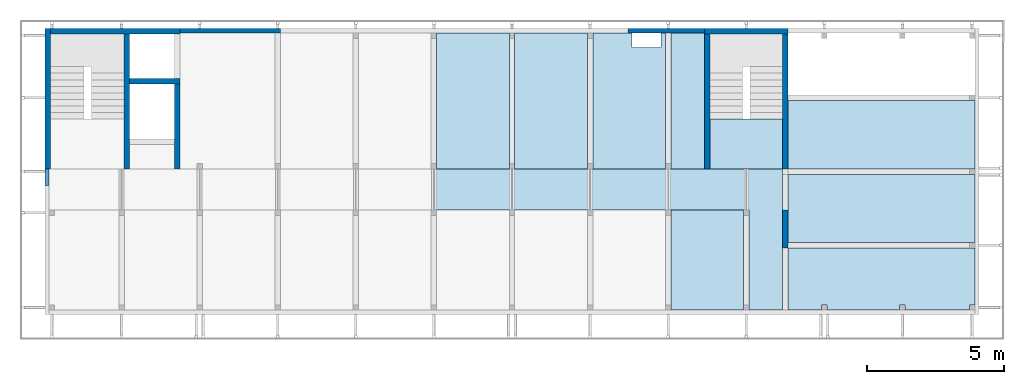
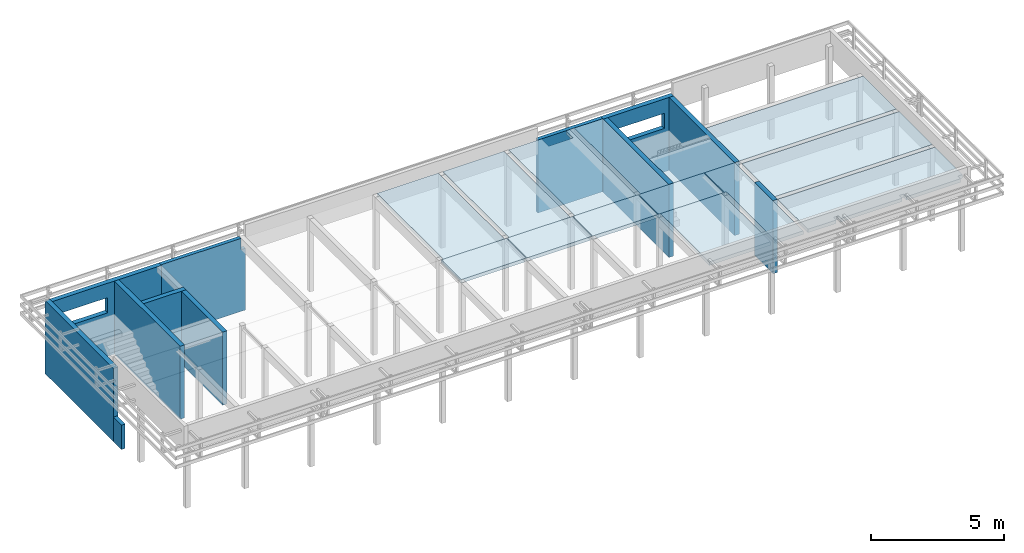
# One storey, part 3 of 44: 14 slabs, 12 walls, 2 openings.
"""IFC4 building model written with IfcOpenShell, lengths in metres."""

from ifc_helpers import new_model, entity, si_unit, converted_unit, derived_unit, frame, frame_2d, origin, origin_with_axes, place, context, subcontext, project, spatial, polyline, rectangle, outline, extrude, clip, bounded_halfspace, material, element, save


model = new_model("IFC4")

# Units and contexts
model_context = context("Model", 3, precision=1e-05, world=origin())
plan_context = context("Plan", 2, precision=1e-05, world=origin())
body_context = subcontext(model_context, "Body", "Model", "MODEL_VIEW")
ifc_project = project(units=[si_unit("LENGTHUNIT", "METRE"), si_unit("AREAUNIT", "SQUARE_METRE"), si_unit("VOLUMEUNIT", "CUBIC_METRE"), si_unit("MASSUNIT", "GRAM", prefix="KILO"), converted_unit("PLANEANGLEUNIT", "DEGREE", entity("IfcPlaneAngleMeasure", 0.0174532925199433), si_unit("PLANEANGLEUNIT", "RADIAN"), dimensions=[0, 0, 0, 0, 0, 0, 0]), derived_unit("THERMALTRANSMITTANCEUNIT", [(si_unit("POWERUNIT", "WATT"), 1), (si_unit("THERMODYNAMICTEMPERATUREUNIT", "KELVIN"), -1), (si_unit("LENGTHUNIT", "METRE"), -2)]), derived_unit("VOLUMETRICFLOWRATEUNIT", [(si_unit("LENGTHUNIT", "METRE"), 3), (converted_unit("TIMEUNIT", "hour", entity("IfcTimeMeasure", 3600.0), si_unit("TIMEUNIT", "SECOND"), dimensions=[0, 0, 1, 0, 0, 0, 0]), -1), (si_unit("LENGTHUNIT", "METRE"), -1)])], contexts=[model_context, plan_context])

# Site, building, storey
site_placement = place(None, origin())
site = spatial("IfcSite", under=ifc_project, at=site_placement, Name="Site", CompositionType="ELEMENT")
building_placement = place(site_placement, origin())
building = spatial("IfcBuilding", under=site, at=building_placement, Name="Admin", CompositionType="ELEMENT")
storey_placement = place(building_placement, frame((0.0, 0.0, 3.25)))
storey = spatial("IfcBuildingStorey", under=building, at=storey_placement, Name="01-Etage1", CompositionType="ELEMENT", Elevation=3.25)

# Slabs
ifc_material_1 = material(Name="CLT")
slab_1_placement = place(storey_placement, frame((38.3498001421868, 17.199449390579, 3.2)))
element("IfcSlab", 1, at=slab_1_placement, inside=storey, material=ifc_material_1, Name="CLT ép. 16 cm", PredefinedType="FLOOR", context=body_context, shape_type="SweptSolid", body=[
    extrude(rectangle(XDim=4.99, YDim=2.65999999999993, at=frame_2d((1.32999999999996, -2.495), x_axis=(0.0, -1.0))), frame((0.0, 4.99, 0.0), z_axis=(0.0, 0.0, 1.0), x_axis=(1.0, 0.0, 0.0)), (0.0, 0.0, 1.0), 0.16),
])
ifc_material_2 = material(Name="CLT")
slab_2_placement = place(storey_placement, frame((51.21980059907, 17.209449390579, 3.2)))
element("IfcSlab", 2, at=slab_2_placement, inside=storey, material=ifc_material_2, Name="CLT ép. 16 cm", PredefinedType="FLOOR", context=body_context, shape_type="SweptSolid", body=[
    extrude(rectangle(XDim=6.8399995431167, YDim=2.5, at=frame_2d((3.41999977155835, 1.25), x_axis=(1.0, 0.0))), origin_with_axes(), (0.0, 0.0, 1.0), 0.16),
])
ifc_material_3 = material(Name="CLT")
slab_3_placement = place(storey_placement, frame((41.1298001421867, 15.699449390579, 3.2)))
element("IfcSlab", 3, at=slab_3_placement, inside=storey, material=ifc_material_3, Name="CLT ép. 16 cm", PredefinedType="FLOOR", context=body_context, shape_type="SweptSolid", body=[
    extrude(rectangle(XDim=2.82, YDim=1.5, at=frame_2d((-1.41, -0.75), x_axis=(-1.0, 0.0))), frame((2.82, 1.5, 0.0), z_axis=(0.0, 0.0, 1.0), x_axis=(1.0, 0.0, 0.0)), (0.0, 0.0, 1.0), 0.16),
])
ifc_material_4 = material(Name="CLT")
slab_4_placement = place(storey_placement, frame((38.2698001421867, 15.699449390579, 3.2)))
element("IfcSlab", 4, at=slab_4_placement, inside=storey, material=ifc_material_4, Name="CLT ép. 16 cm", PredefinedType="FLOOR", context=body_context, shape_type="SweptSolid", body=[
    extrude(rectangle(XDim=2.81999999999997, YDim=1.5, at=frame_2d((-1.40999999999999, -0.75), x_axis=(-1.0, 0.0))), frame((2.81999999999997, 1.5, 0.0), z_axis=(0.0, 0.0, 1.0), x_axis=(1.0, 0.0, 0.0)), (0.0, 0.0, 1.0), 0.16),
])
ifc_material_5 = material(Name="CLT")
slab_5_placement = place(storey_placement, frame((51.21980059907, 14.509449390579, 3.2)))
element("IfcSlab", 5, at=slab_5_placement, inside=storey, material=ifc_material_5, Name="CLT ép. 16 cm", PredefinedType="FLOOR", context=body_context, shape_type="SweptSolid", body=[
    extrude(rectangle(XDim=2.5, YDim=6.8399995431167, at=frame_2d((-3.41999977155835, 1.25), x_axis=(0.0, 1.0))), frame((6.8399995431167, 0.0, 0.0), z_axis=(0.0, 0.0, 1.0), x_axis=(1.0, 0.0, 0.0)), (0.0, 0.0, 1.0), 0.16),
])
ifc_material_6 = material(Name="CLT")
slab_6_placement = place(storey_placement, frame((46.8498001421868, 15.699449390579, 3.2)))
element("IfcSlab", 6, at=slab_6_placement, inside=storey, material=ifc_material_6, Name="CLT ép. 16 cm", PredefinedType="FLOOR", context=body_context, shape_type="SweptSolid", body=[
    extrude(rectangle(XDim=2.8199999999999, YDim=1.5, at=frame_2d((-1.40999999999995, -0.75), x_axis=(-1.0, 0.0))), frame((2.8199999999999, 1.5, 0.0), z_axis=(0.0, 0.0, 1.0), x_axis=(1.0, 0.0, 0.0)), (0.0, 0.0, 1.0), 0.16),
])
ifc_material_7 = material(Name="CLT")
slab_7_placement = place(storey_placement, frame((46.9298001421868, 12.029449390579, 3.2)))
element("IfcSlab", 7, at=slab_7_placement, inside=storey, material=ifc_material_7, Name="CLT ép. 16 cm", PredefinedType="FLOOR", context=body_context, shape_type="SweptSolid", body=[
    extrude(rectangle(XDim=2.65999999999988, YDim=3.67, at=frame_2d((1.32999999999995, 1.835), x_axis=(1.0, 0.0))), origin_with_axes(), (0.0, 0.0, 1.0), 0.16),
])
ifc_material_8 = material(Name="CLT")
slab_8_placement = place(storey_placement, frame((49.7098001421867, 12.029449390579, 3.2)))
element("IfcSlab", 8, at=slab_8_placement, inside=storey, material=ifc_material_8, Name="CLT ép. 16 cm", PredefinedType="FLOOR", context=body_context, shape_type="SweptSolid", body=[
    extrude(outline(polyline([(0.0800000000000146, 3.67), (0.08, 0.0), (1.3100004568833, 0.0), (1.3100004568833, 5.17), (0.0, 5.17), (0.0, 3.67), (0.0800000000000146, 3.67)])), origin_with_axes(), (0.0, 0.0, 1.0), 0.16),
])
ifc_material_9 = material(Name="CLT")
slab_9_placement = place(storey_placement, frame((51.21980059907, 12.029449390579, 3.2)))
element("IfcSlab", 9, at=slab_9_placement, inside=storey, material=ifc_material_9, Name="CLT ép. 16 cm", PredefinedType="FLOOR", context=body_context, shape_type="SweptSolid", body=[
    extrude(outline(polyline([(0.0, 0.0), (1.22999954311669, 0.0), (1.22999954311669, 0.2), (1.4299995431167, 0.2), (1.4299995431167, 0.0), (4.08999954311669, 0.0), (4.08999954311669, 0.2), (4.2899995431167, 0.2), (4.2899995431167, 0.0), (6.63999954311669, 0.0), (6.63999954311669, 0.2), (6.8399995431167, 0.2), (6.8399995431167, 2.28), (0.0, 2.28), (0.0, 0.0)])), origin_with_axes(), (0.0, 0.0, 1.0), 0.16),
])
ifc_material_10 = material(Name="CLT")
slab_10_placement = place(storey_placement, frame((41.2098001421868, 17.199449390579, 3.2)))
element("IfcSlab", 10, at=slab_10_placement, inside=storey, material=ifc_material_10, Name="CLT ép. 16 cm", PredefinedType="FLOOR", context=body_context, shape_type="SweptSolid", body=[
    extrude(rectangle(XDim=4.99, YDim=2.65999999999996, at=frame_2d((1.32999999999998, -2.495), x_axis=(0.0, -1.0))), frame((0.0, 4.99, 0.0), z_axis=(0.0, 0.0, 1.0), x_axis=(1.0, 0.0, 0.0)), (0.0, 0.0, 1.0), 0.16),
])
ifc_material_11 = material(Name="C30/37")
slab_11_placement = place(storey_placement, frame((48.35980059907, 17.199449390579, 3.2)))
element("IfcSlab", 11, at=slab_11_placement, inside=storey, material=ifc_material_11, Name="Escalier Préfab.", PredefinedType="FLOOR", context=body_context, shape_type="SweptSolid", body=[
    extrude(outline(polyline([(2.66, 1.82943827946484), (0.0, 1.82943827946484), (0.0, 0.0), (1.3099995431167, 0.0), (2.66, 0.0), (2.66, 1.82943827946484)])), origin_with_axes(), (0.0, 0.0, 1.0), 0.16),
])
ifc_material_12 = material(Name="CLT")
slab_12_placement = place(storey_placement, frame((46.9298001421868, 17.199449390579, 3.2)))
element("IfcSlab", 12, at=slab_12_placement, inside=storey, material=ifc_material_12, Name="CLT ép. 16 cm", PredefinedType="FLOOR", context=body_context, shape_type="SweptSolid", body=[
    extrude(rectangle(XDim=1.23000045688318, YDim=4.99, at=frame_2d((0.61500022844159, 2.495), x_axis=(1.0, 0.0))), origin_with_axes(), (0.0, 0.0, 1.0), 0.16),
])
ifc_material_13 = material(Name="CLT")
slab_13_placement = place(storey_placement, frame((44.0698001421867, 17.199449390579, 3.2)))
element("IfcSlab", 13, at=slab_13_placement, inside=storey, material=ifc_material_13, Name="CLT ép. 16 cm", PredefinedType="FLOOR", context=body_context, shape_type="SweptSolid", body=[
    extrude(outline(polyline([(0.0, 4.99), (0.0, 0.0), (2.66000000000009, 0.0), (2.66000000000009, 4.99), (2.49000000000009, 4.99), (2.49000000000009, 4.45), (1.4400004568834, 4.45), (1.4400004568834, 4.99), (0.0, 4.99)])), origin_with_axes(), (0.0, 0.0, 1.0), 0.16),
])
ifc_material_14 = material(Name="CLT")
slab_14_placement = place(storey_placement, frame((43.9898001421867, 15.699449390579, 3.2)))
element("IfcSlab", 14, at=slab_14_placement, inside=storey, material=ifc_material_14, Name="CLT ép. 16 cm", PredefinedType="FLOOR", context=body_context, shape_type="SweptSolid", body=[
    extrude(rectangle(XDim=2.82000000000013, YDim=1.5, at=frame_2d((-1.41000000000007, -0.75), x_axis=(-1.0, 0.0))), frame((2.82000000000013, 1.5, 0.0), z_axis=(0.0, 0.0, 1.0), x_axis=(1.0, 0.0, 0.0)), (0.0, 0.0, 1.0), 0.16),
])

# Walls
ifc_material_15 = material(Name="C30/37")
wall_1_placement = place(storey_placement, frame((28.9498295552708, 20.5094421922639, 0.0), z_axis=(0.0, 0.0, 1.0), x_axis=(-1.0, 0.0, 0.0)))
element("IfcWall", 15, at=wall_1_placement, inside=storey, material=ifc_material_15, Name="Voile BA Asc. R+1", context=body_context, shape_type="SweptSolid", body=[
    extrude(rectangle(XDim=1.85, YDim=0.2, at=frame_2d((0.925000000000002, 0.1), x_axis=(1.0, 0.0))), origin_with_axes(), (0.0, 0.0, 1.0), 3.36),
])
ifc_material_16 = material(Name="C30/37")
wall_2_placement = place(storey_placement, frame((28.9498295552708, 17.1994421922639, 0.0), z_axis=(0.0, 0.0, 1.0), x_axis=(0.0, 1.0, 0.0)))
element("IfcWall", 16, at=wall_2_placement, inside=storey, material=ifc_material_16, Name="Voile BA Asc. R+1", context=body_context, shape_type="SweptSolid", body=[
    extrude(rectangle(XDim=3.11, YDim=0.2, at=frame_2d((1.555, 0.1), x_axis=(1.0, 0.0))), origin_with_axes(), (0.0, 0.0, 1.0), 3.36),
])
ifc_material_17 = material(Name="C30/37")
wall_3_placement = place(storey_placement, frame((27.0998295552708, 17.1994421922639, 0.0), z_axis=(0.0, 0.0, 1.0), x_axis=(0.0, 1.0, 0.0)))
element("IfcWall", 17, at=wall_3_placement, inside=storey, material=ifc_material_17, Name="Voile BA Esc. R+1", context=body_context, shape_type="SweptSolid", body=[
    extrude(rectangle(XDim=4.95, YDim=0.2, at=frame_2d((2.475, 0.1), x_axis=(1.0, 0.0))), origin_with_axes(), (0.0, 0.0, 1.0), 3.36),
])
ifc_material_18 = material(Name="C30/37")
wall_4_placement = place(storey_placement, frame((48.35980059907, 17.199449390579, 0.0), z_axis=(0.0, 0.0, 1.0), x_axis=(0.0, 1.0, 0.0)))
element("IfcWall", 18, at=wall_4_placement, inside=storey, material=ifc_material_18, Name="Voile BA Esc. R+1", context=body_context, shape_type="SweptSolid", body=[
    extrude(rectangle(XDim=4.95, YDim=0.2, at=frame_2d((2.475, 0.1), x_axis=(1.0, 0.0))), origin_with_axes(), (0.0, 0.0, 1.0), 3.36),
])

# Wall, opening
ifc_material_19 = material(Name="C30/37")
wall_5_placement = place(storey_placement, frame((51.21980059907, 22.349449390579, 0.0), z_axis=(0.0, 0.0, 1.0), x_axis=(-1.0, 0.0, 0.0)))
wall_5 = element("IfcWall", 19, at=wall_5_placement, inside=storey, material=ifc_material_19, Name="Voile BA Esc. R+1", context=body_context, shape_type="SweptSolid", body=[
    extrude(rectangle(XDim=3.06, YDim=0.2, at=frame_2d((1.53, 0.1), x_axis=(1.0, 0.0))), origin_with_axes(), (0.0, 0.0, 1.0), 3.36),
])
opening_1_placement = place(wall_5_placement, frame((2.6, 0.2, 2.0), z_axis=(0.0, -1.0, 0.0), x_axis=(0.0, 0.0, 1.0)))
element("IfcOpeningElement", 20, at=opening_1_placement, cuts=wall_5, Name="Baie de fenêtre", ObjectType="Opening", context=body_context, shape_type="SweptSolid", body=[
    extrude(outline(polyline([(0.0, 2.2), (0.7, 2.2), (0.7, 0.0), (0.0, 0.0), (0.0, 2.2)])), origin_with_axes(), (0.0, 0.0, 1.0), 0.2),
])

# Wall
ifc_material_20 = material(Name="C30/37")
wall_6_placement = place(storey_placement, frame((23.9998005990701, 22.349449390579, 0.0), z_axis=(0.0, 0.0, 1.0), x_axis=(0.0, -1.0, 0.0)))
element("IfcWall", 21, at=wall_6_placement, inside=storey, material=ifc_material_20, Name="Voile BA Axe 2.A", context=body_context, shape_type="SweptSolid", body=[
    extrude(rectangle(XDim=5.15, YDim=0.2, at=frame_2d((2.575, 0.1), x_axis=(1.0, 0.0))), origin_with_axes(), (0.0, 0.0, 1.0), 3.36),
])

# Wall, opening
ifc_material_21 = material(Name="C30/37")
wall_7_placement = place(storey_placement, frame((28.9498295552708, 22.3494421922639, 0.0), z_axis=(0.0, 0.0, 1.0), x_axis=(-0.999999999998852, 1.51542552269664e-06, 0.0)))
wall_7 = element("IfcWall", 22, at=wall_7_placement, inside=storey, material=ifc_material_21, Name="Voila BA Axe 2.6", context=body_context, shape_type="SweptSolid", body=[
    extrude(outline(polyline([(-4.75002865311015, -0.200007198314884), (3.03096013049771e-07, -0.200007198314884), (1.09085104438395e-11, -7.19831511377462e-06), (-2.40001909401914, -1.08353653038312e-05), (-2.90002895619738, -4.39477789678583e-06), (-4.75002895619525, -7.19831511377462e-06), (-4.75002865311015, -0.200007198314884)])), frame((4.75002865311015, 0.200007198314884, 0.0), z_axis=(0.0, 0.0, 1.0), x_axis=(1.0, 0.0, 0.0)), (0.0, 0.0, 1.0), 3.36),
])
opening_2_placement = place(wall_7_placement, frame((4.55000955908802, 0.19999969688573, 2.0), z_axis=(1.51542552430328e-06, -0.999999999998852, 0.0), x_axis=(0.0, 0.0, 1.0)))
element("IfcOpeningElement", 23, at=opening_2_placement, cuts=wall_7, Name="Baie de fenêtre", ObjectType="Opening", context=body_context, shape_type="SweptSolid", body=[
    extrude(outline(polyline([(0.0, 2.19999999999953), (0.7, 2.19999999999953), (0.7, 0.0), (0.0, 0.0), (0.0, 2.19999999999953)])), origin_with_axes(), (0.0, 0.0, 1.0), 0.2),
])

# Walls
ifc_material_22 = material(Name="C30/37")
wall_8_placement = place(storey_placement, frame((51.01980059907, 15.699449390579, 0.0), z_axis=(0.0, 0.0, 1.0), x_axis=(0.0, -1.0, 0.0)))
element("IfcWall", 24, at=wall_8_placement, inside=storey, material=ifc_material_22, Name="Voile BA Esc. R+1", context=body_context, shape_type="SweptSolid", body=[
    extrude(rectangle(XDim=1.39, YDim=0.2, at=frame_2d((0.695, 0.1), x_axis=(1.0, 0.0))), origin_with_axes(), (0.0, 0.0, 1.0), 3.36),
])
ifc_material_23 = material(Name="C30/37")
wall_9_placement = place(storey_placement, frame((51.21980059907, 17.199449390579, 0.0), z_axis=(0.0, 0.0, 1.0), x_axis=(0.0, 1.0, 0.0)))
element("IfcWall", 25, at=wall_9_placement, inside=storey, material=ifc_material_23, Name="Voile BA Esc. R+1", context=body_context, shape_type="SweptSolid", body=[
    extrude(rectangle(XDim=4.95, YDim=0.2, at=frame_2d((2.475, 0.1), x_axis=(1.0, 0.0))), origin_with_axes(), (0.0, 0.0, 1.0), 3.36),
])
ifc_material_24 = material(Name="CLT")
wall_10_placement = place(storey_placement, frame((32.6298300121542, 22.349449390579, -4.54747350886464e-16), z_axis=(0.0, 0.0, 1.0), x_axis=(-0.999999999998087, -1.95606364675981e-06, 0.0)))
element("IfcWall", 26, at=wall_10_placement, inside=storey, material=ifc_material_24, Name="Panneaux CLT R+1", context=body_context, shape_type="Clipping", body=[
    clip(extrude(outline(polyline([(-3.68000076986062, -0.159999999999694), (-0.669971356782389, -0.160005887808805), (-3.1297018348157e-07, -0.159999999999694), (0.0, 0.0), (-3.68000045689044, 0.0), (-3.68000076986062, -0.159999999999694)])), frame((3.68000076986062, 0.159999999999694, 0.0), z_axis=(0.0, 0.0, 1.0), x_axis=(1.0, 0.0, 0.0)), (0.0, 0.0, 1.0), 3.36), bounded_halfspace(frame((0.100030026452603, 0.0799999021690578, 2.84), z_axis=(0.0, 0.0, -1.0), x_axis=(0.999999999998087, -1.95606364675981e-06, 0.0)), True, origin_with_axes(), polyline([(2.98699675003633e-05, -5.68195709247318e-11), (0.200029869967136, -3.91269548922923e-07), (0.200030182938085, 0.160000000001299), (3.01829376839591e-05, 0.1600000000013), (2.98699675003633e-05, -5.68195709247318e-11)]))),
])
ifc_material_25 = material(Name="CLT")
wall_11_placement = place(storey_placement, frame((48.15980059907, 22.349449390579, 0.0), z_axis=(0.0, 0.0, 1.0), x_axis=(-1.0, 0.0, 0.0)))
element("IfcWall", 27, at=wall_11_placement, inside=storey, material=ifc_material_25, Name="Panneaux CLT R+1", context=body_context, shape_type="SweptSolid", body=[
    extrude(rectangle(XDim=2.80999999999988, YDim=0.16, at=frame_2d((1.40499999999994, 0.08), x_axis=(1.0, 0.0))), origin_with_axes(), (0.0, 0.0, 1.0), 3.36),
])
ifc_material_26 = material(Name="C30/37")
wall_12_placement = place(storey_placement, frame((23.9998005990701, 17.199449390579, 0.0), z_axis=(0.0, 0.0, 1.0), x_axis=(0.0, -1.0, 0.0)))
element("IfcWall", 28, at=wall_12_placement, inside=storey, material=ifc_material_26, Name="Voile BA Axe 2.A", context=body_context, shape_type="SweptSolid", body=[
    extrude(rectangle(XDim=0.61, YDim=0.16, at=frame_2d((0.305, 0.08), x_axis=(1.0, 0.0))), origin_with_axes(), (0.0, 0.0, 1.0), 1.12),
])

save(model, "model.ifc")
